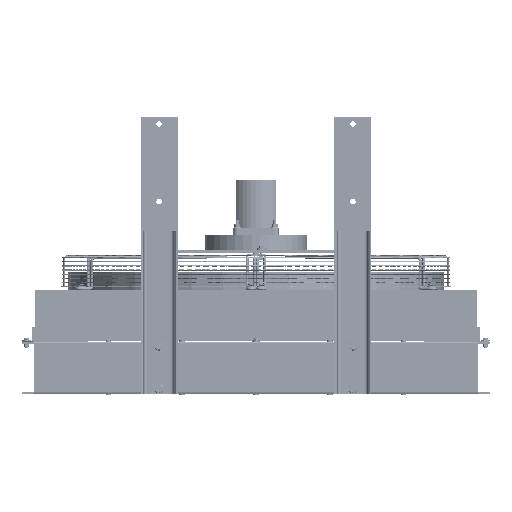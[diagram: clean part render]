
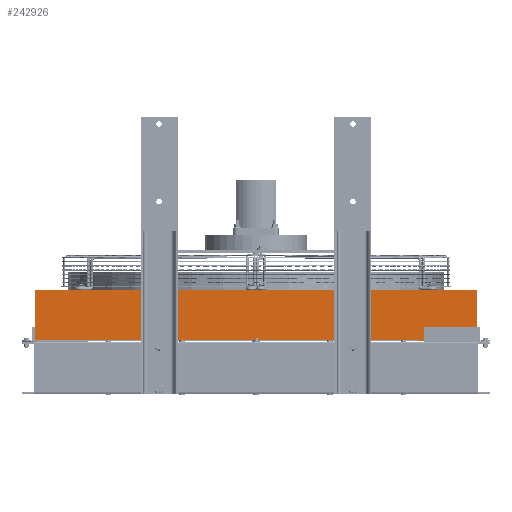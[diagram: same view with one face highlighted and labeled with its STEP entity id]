
A CAD part, left-side view. The second image highlights one B-rep face of the part: STEP entity #242926.
In plain terms, the highlighted planar face has unit normal (-1, 0, 0) as drawn and (0, 1, 0) by its records, which use the part's own axes.
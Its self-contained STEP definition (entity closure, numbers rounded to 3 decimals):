
#241171=CARTESIAN_POINT(' ',(-596.5,600.,0.));
#241176=DIRECTION(' ',(-1.,0.,0.));
#241181=VECTOR(' ',#241176,1.);
#241186=LINE('',#241171,#241181);
#241191=CARTESIAN_POINT(' ',(-596.5,600.,0.));
#241192=VERTEX_POINT(' ',#241191);
#241196=CARTESIAN_POINT(' ',(-598.5,600.,0.));
#241197=VERTEX_POINT(' ',#241196);
#241201=EDGE_CURVE(' ',#241192,#241197,#241186,.T.);
#242541=CARTESIAN_POINT(' ',(-598.5,600.,0.));
#242546=DIRECTION(' ',(0.,1.,0.));
#242551=DIRECTION(' ',(0.,0.,1.));
#242556=AXIS2_PLACEMENT_3D(' ',#242541,#242546,#242551);
#242561=PLANE(' ',#242556);
#242566=CARTESIAN_POINT(' ',(598.5,600.,0.));
#242571=DIRECTION(' ',(-1.,0.,0.));
#242576=VECTOR(' ',#242571,1.);
#242581=LINE('',#242566,#242576);
#242586=CARTESIAN_POINT(' ',(598.5,600.,0.));
#242587=VERTEX_POINT(' ',#242586);
#242591=CARTESIAN_POINT(' ',(596.5,600.,0.));
#242592=VERTEX_POINT(' ',#242591);
#242596=EDGE_CURVE(' ',#242587,#242592,#242581,.T.);
#242601=ORIENTED_EDGE(' ',*,*,#242596,.T.);
#242606=CARTESIAN_POINT(' ',(596.5,600.,0.));
#242611=DIRECTION(' ',(0.,0.,1.));
#242616=VECTOR(' ',#242611,1.);
#242621=LINE('',#242606,#242616);
#242626=CARTESIAN_POINT(' ',(596.5,600.,3.));
#242627=VERTEX_POINT(' ',#242626);
#242631=EDGE_CURVE(' ',#242592,#242627,#242621,.T.);
#242636=ORIENTED_EDGE(' ',*,*,#242631,.T.);
#242641=CARTESIAN_POINT(' ',(596.5,600.,3.));
#242646=DIRECTION(' ',(0.,0.,1.));
#242651=VECTOR(' ',#242646,1.);
#242656=LINE('',#242641,#242651);
#242661=CARTESIAN_POINT(' ',(596.5,600.,5.));
#242662=VERTEX_POINT(' ',#242661);
#242666=EDGE_CURVE(' ',#242627,#242662,#242656,.T.);
#242671=ORIENTED_EDGE(' ',*,*,#242666,.T.);
#242676=CARTESIAN_POINT(' ',(596.5,600.,5.));
#242681=DIRECTION(' ',(-1.,0.,0.));
#242686=VECTOR(' ',#242681,1.);
#242691=LINE('',#242676,#242686);
#242696=CARTESIAN_POINT(' ',(-442.,600.,5.));
#242697=VERTEX_POINT(' ',#242696);
#242701=EDGE_CURVE(' ',#242662,#242697,#242691,.T.);
#242706=ORIENTED_EDGE(' ',*,*,#242701,.T.);
#242711=CARTESIAN_POINT(' ',(-442.,600.,5.));
#242716=DIRECTION(' ',(0.,0.,-1.));
#242721=VECTOR(' ',#242716,1.);
#242726=LINE('',#242711,#242721);
#242731=CARTESIAN_POINT(' ',(-442.,600.,3.));
#242732=VERTEX_POINT(' ',#242731);
#242736=EDGE_CURVE(' ',#242697,#242732,#242726,.T.);
#242741=ORIENTED_EDGE(' ',*,*,#242736,.T.);
#242746=CARTESIAN_POINT(' ',(-442.,600.,3.));
#242751=DIRECTION(' ',(-1.,0.,0.));
#242756=VECTOR(' ',#242751,1.);
#242761=LINE('',#242746,#242756);
#242766=CARTESIAN_POINT(' ',(-596.5,600.,3.));
#242767=VERTEX_POINT(' ',#242766);
#242771=EDGE_CURVE(' ',#242732,#242767,#242761,.T.);
#242776=ORIENTED_EDGE(' ',*,*,#242771,.T.);
#242781=CARTESIAN_POINT(' ',(-596.5,600.,3.));
#242786=DIRECTION(' ',(0.,0.,-1.));
#242791=VECTOR(' ',#242786,1.);
#242796=LINE('',#242781,#242791);
#242801=EDGE_CURVE(' ',#242767,#241192,#242796,.T.);
#242806=ORIENTED_EDGE(' ',*,*,#242801,.T.);
#242811=ORIENTED_EDGE(' ',*,*,#241201,.T.);
#242816=CARTESIAN_POINT(' ',(-598.5,600.,140.));
#242821=DIRECTION(' ',(0.,0.,-1.));
#242826=VECTOR(' ',#242821,1.);
#242831=LINE('',#242816,#242826);
#242836=CARTESIAN_POINT(' ',(-598.5,600.,140.));
#242837=VERTEX_POINT(' ',#242836);
#242841=EDGE_CURVE(' ',#242837,#241197,#242831,.T.);
#242846=ORIENTED_EDGE(' ',*,*,#242841,.F.);
#242851=CARTESIAN_POINT(' ',(598.5,600.,140.));
#242856=DIRECTION(' ',(-1.,0.,0.));
#242861=VECTOR(' ',#242856,1.);
#242866=LINE('',#242851,#242861);
#242871=CARTESIAN_POINT(' ',(598.5,600.,140.));
#242872=VERTEX_POINT(' ',#242871);
#242876=EDGE_CURVE(' ',#242872,#242837,#242866,.T.);
#242881=ORIENTED_EDGE(' ',*,*,#242876,.F.);
#242886=CARTESIAN_POINT(' ',(598.5,600.,140.));
#242891=DIRECTION(' ',(0.,0.,-1.));
#242896=VECTOR(' ',#242891,1.);
#242901=LINE('',#242886,#242896);
#242906=EDGE_CURVE(' ',#242872,#242587,#242901,.T.);
#242911=ORIENTED_EDGE(' ',*,*,#242906,.T.);
#242916=EDGE_LOOP(' ',(#242601,#242636,#242671,#242706,#242741,#242776,#242806,#242811,#242846,#242881,#242911));
#242921=FACE_OUTER_BOUND(' ',#242916,.T.);
#242926=ADVANCED_FACE('',(#242921),#242561,.T.);
